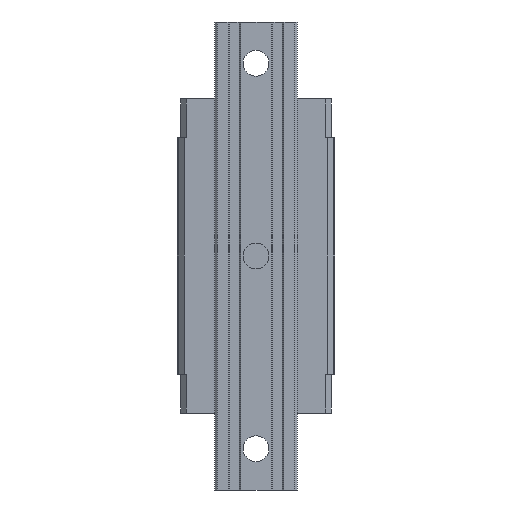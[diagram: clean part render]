
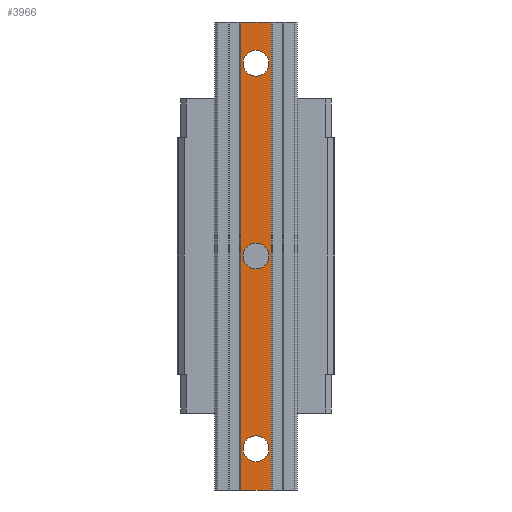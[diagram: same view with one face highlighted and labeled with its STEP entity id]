
A CAD part, front view. The second image highlights one B-rep face of the part: STEP entity #3966.
In plain terms, the highlighted planar face has unit normal (0, -1, 0).
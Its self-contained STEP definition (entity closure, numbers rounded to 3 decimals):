
#28 = CARTESIAN_POINT ( 'NONE',  ( 0., -38., -7. ) ) ;
#39 = CARTESIAN_POINT ( 'NONE',  ( 0., -38., -105. ) ) ;
#50 = DIRECTION ( 'NONE',  ( 0., -1., 0. ) ) ;
#54 = EDGE_CURVE ( 'NONE', #450, #165, #4961, .T. ) ;
#152 = ORIENTED_EDGE ( 'NONE', *, *, #2426, .T. ) ;
#165 = VERTEX_POINT ( 'NONE', #4307 ) ;
#172 = DIRECTION ( 'NONE',  ( 0., 0., 1. ) ) ;
#181 = DIRECTION ( 'NONE',  ( 0., 0., -1. ) ) ;
#450 = VERTEX_POINT ( 'NONE', #28 ) ;
#483 = VERTEX_POINT ( 'NONE', #5500 ) ;
#499 = AXIS2_PLACEMENT_3D ( 'NONE', #5970, #2749, #5404 ) ;
#529 = FACE_BOUND ( 'NONE', #2683, .T. ) ;
#584 = CARTESIAN_POINT ( 'NONE',  ( 0., -38., 98. ) ) ;
#840 = CARTESIAN_POINT ( 'NONE',  ( 0., -38., -105. ) ) ;
#1083 = VECTOR ( 'NONE', #1822, 1000. ) ;
#1206 = ORIENTED_EDGE ( 'NONE', *, *, #6494, .T. ) ;
#1231 = EDGE_CURVE ( 'NONE', #5767, #483, #3421, .T. ) ;
#1232 = EDGE_CURVE ( 'NONE', #483, #6850, #4234, .T. ) ;
#1336 = CARTESIAN_POINT ( 'NONE',  ( -8.25, -38., -127.5 ) ) ;
#1364 = ORIENTED_EDGE ( 'NONE', *, *, #1232, .T. ) ;
#1383 = CIRCLE ( 'NONE', #4236, 7. ) ;
#1388 = CARTESIAN_POINT ( 'NONE',  ( 8.25, -38., -127.5 ) ) ;
#1413 = CIRCLE ( 'NONE', #4956, 7. ) ;
#1511 = CARTESIAN_POINT ( 'NONE',  ( 0., -38., 0. ) ) ;
#1601 = FACE_OUTER_BOUND ( 'NONE', #6629, .T. ) ;
#1604 = ORIENTED_EDGE ( 'NONE', *, *, #5247, .F. ) ;
#1727 = ORIENTED_EDGE ( 'NONE', *, *, #6667, .T. ) ;
#1822 = DIRECTION ( 'NONE',  ( 0., 0., 1. ) ) ;
#1891 = DIRECTION ( 'NONE',  ( 0., 1., 0. ) ) ;
#1962 = CARTESIAN_POINT ( 'NONE',  ( 8.25, -38., 127.5 ) ) ;
#2032 = ORIENTED_EDGE ( 'NONE', *, *, #5878, .T. ) ;
#2066 = CARTESIAN_POINT ( 'NONE',  ( 0., -38., -112. ) ) ;
#2133 = VERTEX_POINT ( 'NONE', #1962 ) ;
#2140 = DIRECTION ( 'NONE',  ( 0., 1., 0. ) ) ;
#2290 = AXIS2_PLACEMENT_3D ( 'NONE', #840, #2409, #5584 ) ;
#2302 = CARTESIAN_POINT ( 'NONE',  ( -8.25, -38., 127.5 ) ) ;
#2409 = DIRECTION ( 'NONE',  ( 0., 1., 0. ) ) ;
#2426 = EDGE_CURVE ( 'NONE', #165, #450, #1383, .T. ) ;
#2451 = EDGE_LOOP ( 'NONE', ( #5352, #5529 ) ) ;
#2489 = VERTEX_POINT ( 'NONE', #2066 ) ;
#2593 = ORIENTED_EDGE ( 'NONE', *, *, #1231, .T. ) ;
#2683 = EDGE_LOOP ( 'NONE', ( #1727, #2032 ) ) ;
#2724 = CARTESIAN_POINT ( 'NONE',  ( 0., -38., 105. ) ) ;
#2727 = EDGE_CURVE ( 'NONE', #2761, #2489, #5267, .T. ) ;
#2749 = DIRECTION ( 'NONE',  ( 0., 1., 0. ) ) ;
#2761 = VERTEX_POINT ( 'NONE', #6680 ) ;
#2808 = PLANE ( 'NONE',  #4078 ) ;
#2837 = DIRECTION ( 'NONE',  ( 0., 0., 1. ) ) ;
#2895 = LINE ( 'NONE', #4970, #1083 ) ;
#3047 = FACE_BOUND ( 'NONE', #2451, .T. ) ;
#3421 = LINE ( 'NONE', #1336, #5867 ) ;
#3509 = CIRCLE ( 'NONE', #5056, 7. ) ;
#3621 = DIRECTION ( 'NONE',  ( 0., 0., 1. ) ) ;
#3657 = CARTESIAN_POINT ( 'NONE',  ( 0., -38., 127.5 ) ) ;
#3736 = ORIENTED_EDGE ( 'NONE', *, *, #54, .T. ) ;
#3751 = CARTESIAN_POINT ( 'NONE',  ( 0., -38., -127.5 ) ) ;
#3924 = CARTESIAN_POINT ( 'NONE',  ( 0., -38., 0. ) ) ;
#3966 = ADVANCED_FACE ( 'NONE', ( #3047, #529, #4325, #1601 ), #2808, .T. ) ;
#4000 = VECTOR ( 'NONE', #6331, 1000. ) ;
#4078 = AXIS2_PLACEMENT_3D ( 'NONE', #4905, #50, #181 ) ;
#4100 = DIRECTION ( 'NONE',  ( 0., 1., 0. ) ) ;
#4174 = LINE ( 'NONE', #3657, #4000 ) ;
#4234 = LINE ( 'NONE', #3751, #6075 ) ;
#4236 = AXIS2_PLACEMENT_3D ( 'NONE', #3924, #1891, #2837 ) ;
#4307 = CARTESIAN_POINT ( 'NONE',  ( 0., -38., 7. ) ) ;
#4325 = FACE_BOUND ( 'NONE', #5002, .T. ) ;
#4549 = CARTESIAN_POINT ( 'NONE',  ( 0., -38., 112. ) ) ;
#4743 = DIRECTION ( 'NONE',  ( 0., 1., 0. ) ) ;
#4816 = DIRECTION ( 'NONE',  ( 0., 0., 1. ) ) ;
#4905 = CARTESIAN_POINT ( 'NONE',  ( -8.25, -38., -127.5 ) ) ;
#4956 = AXIS2_PLACEMENT_3D ( 'NONE', #2724, #4743, #4816 ) ;
#4961 = CIRCLE ( 'NONE', #6183, 7. ) ;
#4970 = CARTESIAN_POINT ( 'NONE',  ( 8.25, -38., -127.5 ) ) ;
#5002 = EDGE_LOOP ( 'NONE', ( #152, #3736 ) ) ;
#5056 = AXIS2_PLACEMENT_3D ( 'NONE', #39, #2140, #172 ) ;
#5247 = EDGE_CURVE ( 'NONE', #5767, #2133, #4174, .T. ) ;
#5267 = CIRCLE ( 'NONE', #2290, 7. ) ;
#5352 = ORIENTED_EDGE ( 'NONE', *, *, #2727, .T. ) ;
#5395 = VERTEX_POINT ( 'NONE', #4549 ) ;
#5404 = DIRECTION ( 'NONE',  ( 0., 0., 1. ) ) ;
#5500 = CARTESIAN_POINT ( 'NONE',  ( -8.25, -38., -127.5 ) ) ;
#5529 = ORIENTED_EDGE ( 'NONE', *, *, #6420, .T. ) ;
#5548 = DIRECTION ( 'NONE',  ( 0., 0., -1. ) ) ;
#5584 = DIRECTION ( 'NONE',  ( 0., 0., 1. ) ) ;
#5642 = VERTEX_POINT ( 'NONE', #584 ) ;
#5767 = VERTEX_POINT ( 'NONE', #2302 ) ;
#5867 = VECTOR ( 'NONE', #5548, 1000. ) ;
#5878 = EDGE_CURVE ( 'NONE', #5642, #5395, #6382, .T. ) ;
#5970 = CARTESIAN_POINT ( 'NONE',  ( 0., -38., 105. ) ) ;
#6075 = VECTOR ( 'NONE', #6353, 1000. ) ;
#6183 = AXIS2_PLACEMENT_3D ( 'NONE', #1511, #4100, #3621 ) ;
#6331 = DIRECTION ( 'NONE',  ( 1., 0., 0. ) ) ;
#6353 = DIRECTION ( 'NONE',  ( 1., 0., 0. ) ) ;
#6382 = CIRCLE ( 'NONE', #499, 7. ) ;
#6420 = EDGE_CURVE ( 'NONE', #2489, #2761, #3509, .T. ) ;
#6494 = EDGE_CURVE ( 'NONE', #6850, #2133, #2895, .T. ) ;
#6629 = EDGE_LOOP ( 'NONE', ( #2593, #1364, #1206, #1604 ) ) ;
#6667 = EDGE_CURVE ( 'NONE', #5395, #5642, #1413, .T. ) ;
#6680 = CARTESIAN_POINT ( 'NONE',  ( 0., -38., -98. ) ) ;
#6850 = VERTEX_POINT ( 'NONE', #1388 ) ;
